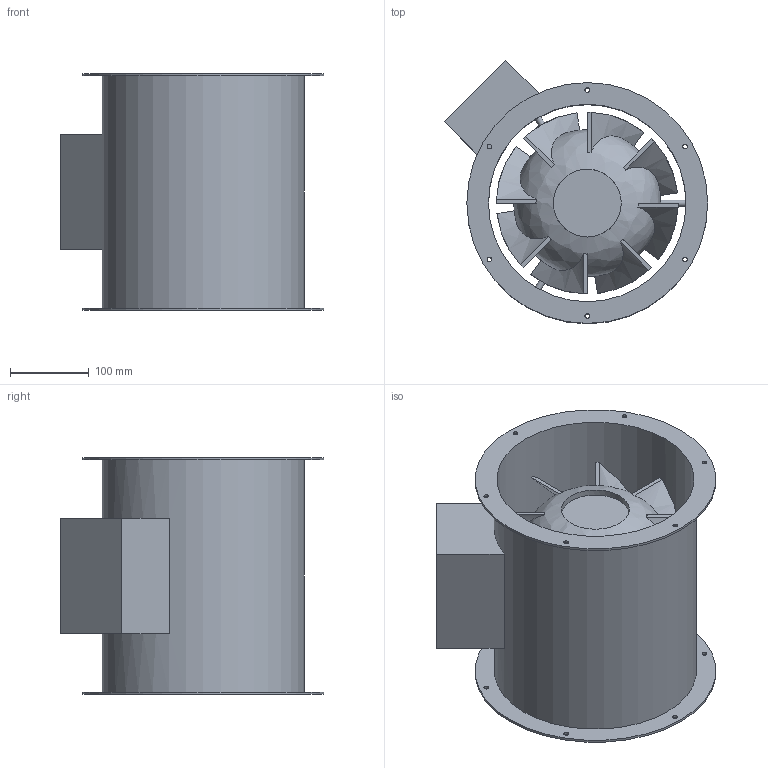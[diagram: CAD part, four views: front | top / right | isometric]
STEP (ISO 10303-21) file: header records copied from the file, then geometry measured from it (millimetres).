
FILE_DESCRIPTION(/* description */ (''),/* implementation_level */ '2;1');
FILE_NAME(/* name */ 'Z:\Output\VARW_250-4_TK-06666-015.stp',/* time_stamp */ '2017-10-09T10:55:58+02:00',/* author */ ('jayeshpanchal'),/* organization */ (''),/* preprocessor_version */ 'ST-DEVELOPER v16.5',/* originating_system */ 'Autodesk Inventor 2017',/* authorisation */ '');
FILE_SCHEMA (('AUTOMOTIVE_DESIGN { 1 0 10303 214 3 1 1 }'));
Length unit declared in the file: millimetre
Products named in the file (1): AVD-RK
Bounding box: 333.52 x 333.52 x 300 mm (x, y, z)
Volume: 5898749.4 mm3; surface area: 845430 mm2
Topology: 1 solids, 1 shells, 152 faces, 446 edges, 302 vertices
Faces by surface type: plane 83, cylinder 40, bspline 27, cone 2
Full cylindrical faces by diameter (mm): 6 x12, 8 x3, 30 x1, 86 x1, 186 x1, 250 x1, 256 x1, 305 x2
Entity records: 5787 total; most frequent: CARTESIAN_POINT 1965, ORIENTED_EDGE 818, DIRECTION 710, EDGE_CURVE 409, VERTEX_POINT 290, AXIS2_PLACEMENT_3D 290, EDGE_LOOP 211, FACE_OUTER_BOUND 151
